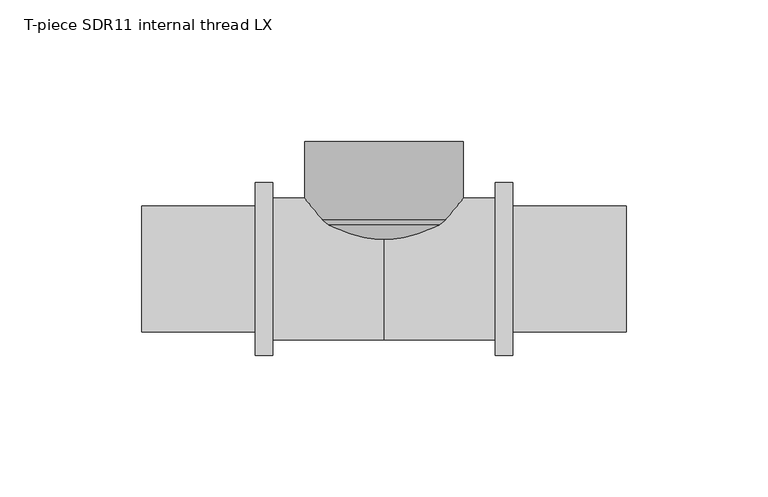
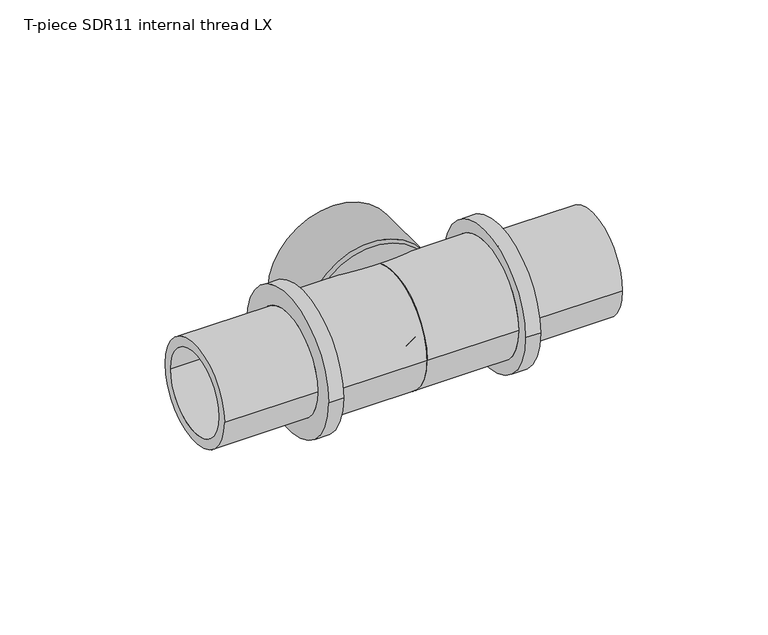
"""IFC4 building model written with IfcOpenShell, lengths in millimetres: pipe fitting geometry, T-piece SDR11 internal thread LX : T-piece LX SDR11 internal LX."""

from ifc_helpers import new_model, si_unit, point, frame, origin, place, context, project, spatial, polyline, circle_curve, ellipse_curve, trimmed, source, transform, mapped, element, save
from ifc_brep_helpers import plane_surface, cylinder_surface, revolved_surface, advanced_brep


def t_piece_sdr11_internal_thread_lx_7085c5c9(model_context):
    return source(origin(), model_context, "Body", "AdvancedBrep", [
        advanced_brep(
        [(20.0, 19.5, 0.0), (-20.0, 19.5, 0.0), (-20.0, 45.0, 0.0), (20.0, 45.0, 0.0), (0.5, 0.0, 0.0), (-0.5, 0.0, 0.0), (27.2683856, 15.4546771, 0.0), (-27.2683856, 15.4546771, 0.0), (-11.8137085, 0.0, 0.0), (11.8137085, 0.0, 0.0), (28.0, 17.2209505, 0.0), (-28.0, 17.2209505, 0.0), (28.0, 45.0, 0.0), (-28.0, 45.0, 0.0)],
        [
            (0, 1, circle_curve(frame((0.0, 19.5, 0.0), z_axis=(0.0, -1.0, 0.0), x_axis=(-1.0, 0.0, 0.0)), 20.0)),
            (1, 2),
            (2, 3, circle_curve(frame((0.0, 45.0, 0.0), z_axis=(0.0, 1.0, 0.0), x_axis=(-1.0, 0.0, 0.0)), 20.0)),
            (3, 0),
            (4, 5, circle_curve(frame((0.0, 0.0, 0.0), z_axis=(0.0, -1.0, 0.0), x_axis=(-1.0, 0.0, 0.0)), 0.5)),
            (5, 1),
            (0, 4),
            (6, 7, circle_curve(frame((0.0, 15.4546771, 0.0), z_axis=(0.0, -1.0, 0.0), x_axis=(-1.0, 0.0, 0.0)), 27.2683856)),
            (7, 8),
            (8, 9, circle_curve(frame((0.0, 0.0, 0.0), z_axis=(0.0, 1.0, 0.0), x_axis=(-1.0, 0.0, 0.0)), 11.8137085)),
            (9, 6),
            (10, 11, circle_curve(frame((0.0, 17.2209505, 0.0), z_axis=(0.0, -1.0, 0.0), x_axis=(-1.0, 0.0, 0.0)), 28.0)),
            (11, 7, circle_curve(frame((-20.0, 19.5, 0.0), z_axis=(0.0, 0.0, 1.0), x_axis=(0.0, 1.0, 0.0)), 8.3182971)),
            (6, 10, circle_curve(frame((20.0, 19.5, 0.0), z_axis=(0.0, 0.0, 1.0), x_axis=(0.0, 1.0, 0.0)), 8.3182971)),
            (12, 13, circle_curve(frame((0.0, 45.0, 0.0), z_axis=(0.0, -1.0, 0.0), x_axis=(-1.0, 0.0, 0.0)), 28.0)),
            (13, 11),
            (10, 12),
            (12, 13, circle_curve(frame((0.0, 45.0, 0.0), z_axis=(0.0, 1.0, 0.0), x_axis=(1.0, 0.0, 0.0)), 28.0)),
            (2, 3, circle_curve(frame((0.0, 45.0, 0.0), z_axis=(0.0, -1.0, 0.0), x_axis=(1.0, 0.0, 0.0)), 20.0)),
            (1, 0, circle_curve(frame((0.0, 19.5, 0.0), z_axis=(0.0, -1.0, 0.0), x_axis=(1.0, 0.0, 0.0)), 20.0)),
            (5, 4, circle_curve(frame((0.0, 0.0, 0.0), z_axis=(0.0, -1.0, 0.0), x_axis=(1.0, 0.0, 0.0)), 0.5)),
            (8, 9, circle_curve(frame((0.0, 0.0, 0.0), z_axis=(0.0, -1.0, 0.0), x_axis=(1.0, 0.0, 0.0)), 11.8137085)),
            (7, 6, circle_curve(frame((0.0, 15.4546771, 0.0), z_axis=(0.0, -1.0, 0.0), x_axis=(1.0, 0.0, 0.0)), 27.2683856)),
            (11, 10, circle_curve(frame((0.0, 17.2209505, 0.0), z_axis=(0.0, -1.0, 0.0), x_axis=(1.0, 0.0, 0.0)), 28.0)),
        ],
        [
            revolved_surface(polyline([(-20.0, 45.0, 0.0), (-20.0, 19.5, 0.0)]), (0.0, 0.0, 0.0), (0.0, 1.0, 0.0)),
            revolved_surface(polyline([(-20.0, 19.5, 0.0), (-0.5, 0.0, 0.0)]), (0.0, 0.0, 0.0), (0.0, 1.0, 0.0)),
            revolved_surface(polyline([(-11.8137085, 0.0, 0.0), (-27.2683856, 15.4546771, 0.0)]), (0.0, 0.0, 0.0), (0.0, 1.0, 0.0)),
            revolved_surface(trimmed(ellipse_curve(frame((-20.0, 19.5, 0.0), z_axis=(0.0, 0.0, -1.0), x_axis=(0.0, 1.0, 0.0)), 8.3182971, 8.3182971), [point((-27.2683856, 15.4546771, 0.0))], [point((-28.0, 17.2209505, 0.0))], True, "CARTESIAN"), (0.0, 0.0, 0.0), (0.0, 1.0, 0.0)),
            cylinder_surface(frame((0.0, 0.0, 0.0), z_axis=(0.0, 1.0, 0.0), x_axis=(-1.0, 0.0, 0.0)), 28.0),
            plane_surface(frame((0.0, 45.0, 0.0), z_axis=(0.0, 1.0, 0.0), x_axis=(1.0, 0.0, 0.0))),
            revolved_surface(polyline([(20.0, 45.0, 0.0), (20.0, 19.5, 0.0)]), (0.0, 0.0, 0.0), (0.0, 1.0, 0.0)),
            revolved_surface(polyline([(20.0, 19.5, 0.0), (0.5, 0.0, 0.0)]), (0.0, 0.0, 0.0), (0.0, 1.0, 0.0)),
            plane_surface(frame((0.0, 0.0, 0.0), z_axis=(0.0, -1.0, 0.0), x_axis=(1.0, 0.0, 0.0))),
            revolved_surface(polyline([(11.8137085, 0.0, 0.0), (27.2683856, 15.4546771, 0.0)]), (0.0, 0.0, 0.0), (0.0, 1.0, 0.0)),
            revolved_surface(trimmed(ellipse_curve(frame((20.0, 19.5, 0.0), z_axis=(0.0, 0.0, 1.0), x_axis=(0.0, 1.0, 0.0)), 8.3182971, 8.3182971), [point((27.2683856, 15.4546771, 0.0))], [point((28.0, 17.2209505, 0.0))], True, "CARTESIAN"), (0.0, 0.0, 0.0), (0.0, 1.0, 0.0)),
            cylinder_surface(frame((0.0, 0.0, 0.0), z_axis=(0.0, 1.0, 0.0), x_axis=(1.0, 0.0, 0.0)), 28.0),
        ],
        [
            (0, [[1, 2, 3, 4]]),
            (1, [[5, 6, -1, 7]]),
            (2, [[8, 9, 10, 11]]),
            (3, [[12, 13, -8, 14]]),
            (4, [[15, 16, -12, 17]]),
            (5, [[18, -15], [19, -3]]),
            (6, [[20, -4, -19, -2]]),
            (7, [[21, -7, -20, -6]]),
            (8, [[22, -10], [-21, -5]]),
            (9, [[23, -11, -22, -9]]),
            (10, [[24, -14, -23, -13]]),
            (11, [[-18, -17, -24, -16]]),
        ],
    ),
        advanced_brep(
        [(45.5, 30.5, 0.0), (45.5, -30.5, 0.0), (39.2, -30.5, 0.0), (39.2, 30.5, 0.0), (85.5, 22.15, 0.0), (85.5, -22.15, 0.0), (45.5, -22.15, 0.0), (45.5, 22.15, 0.0), (0.0, 18.0, 0.0), (0.0, -18.0, 0.0), (85.5, -18.0, 0.0), (85.5, 18.0, 0.0), (39.2, 25.0, 0.0), (39.2, -25.0, 0.0), (0.0, -25.0, 0.0), (0.0, 25.0, 0.0)],
        [
            (0, 1, circle_curve(frame((45.5, 0.0, 0.0), z_axis=(-1.0, 0.0, 0.0), x_axis=(0.0, -1.0, 0.0)), 30.5)),
            (1, 2),
            (2, 3, circle_curve(frame((39.2, 0.0, 0.0), z_axis=(1.0, 0.0, 0.0), x_axis=(0.0, -1.0, 0.0)), 30.5)),
            (3, 0),
            (4, 5, circle_curve(frame((85.5, 0.0, 0.0), z_axis=(-1.0, 0.0, 0.0), x_axis=(0.0, -1.0, 0.0)), 22.15)),
            (5, 6),
            (6, 7, circle_curve(frame((45.5, 0.0, 0.0), z_axis=(1.0, 0.0, 0.0), x_axis=(0.0, -1.0, 0.0)), 22.15)),
            (7, 4),
            (8, 9, circle_curve(frame((0.0, 0.0, 0.0), z_axis=(-1.0, 0.0, 0.0), x_axis=(0.0, -1.0, 0.0)), 18.0)),
            (9, 10),
            (10, 11, circle_curve(frame((85.5, 0.0, 0.0), z_axis=(1.0, 0.0, 0.0), x_axis=(0.0, -1.0, 0.0)), 18.0)),
            (11, 8),
            (12, 13, circle_curve(frame((39.2, 0.0, 0.0), z_axis=(-1.0, 0.0, 0.0), x_axis=(0.0, -1.0, 0.0)), 25.0)),
            (13, 14),
            (14, 15, circle_curve(frame((0.0, 0.0, 0.0), z_axis=(1.0, 0.0, 0.0), x_axis=(0.0, -1.0, 0.0)), 25.0)),
            (15, 12),
            (1, 0, circle_curve(frame((45.5, 0.0, 0.0), z_axis=(-1.0, 0.0, 0.0), x_axis=(0.0, 1.0, 0.0)), 30.5)),
            (3, 2, circle_curve(frame((39.2, 0.0, 0.0), z_axis=(1.0, 0.0, 0.0), x_axis=(0.0, 1.0, 0.0)), 30.5)),
            (6, 7, circle_curve(frame((45.5, 0.0, 0.0), z_axis=(-1.0, 0.0, 0.0), x_axis=(0.0, 1.0, 0.0)), 22.15)),
            (5, 4, circle_curve(frame((85.5, 0.0, 0.0), z_axis=(-1.0, 0.0, 0.0), x_axis=(0.0, 1.0, 0.0)), 22.15)),
            (10, 11, circle_curve(frame((85.5, 0.0, 0.0), z_axis=(-1.0, 0.0, 0.0), x_axis=(0.0, 1.0, 0.0)), 18.0)),
            (9, 8, circle_curve(frame((0.0, 0.0, 0.0), z_axis=(-1.0, 0.0, 0.0), x_axis=(0.0, 1.0, 0.0)), 18.0)),
            (14, 15, circle_curve(frame((0.0, 0.0, 0.0), z_axis=(-1.0, 0.0, 0.0), x_axis=(0.0, 1.0, 0.0)), 25.0)),
            (13, 12, circle_curve(frame((39.2, 0.0, 0.0), z_axis=(-1.0, 0.0, 0.0), x_axis=(0.0, 1.0, 0.0)), 25.0)),
        ],
        [
            cylinder_surface(frame((0.0, 0.0, 0.0), z_axis=(1.0, 0.0, 0.0), x_axis=(0.0, -1.0, 0.0)), 30.5),
            cylinder_surface(frame((0.0, 0.0, 0.0), z_axis=(1.0, 0.0, 0.0), x_axis=(0.0, -1.0, 0.0)), 22.15),
            revolved_surface(polyline([(85.5, -18.0, 0.0), (0.0, -18.0, 0.0)]), (0.0, 0.0, 0.0), (1.0, 0.0, 0.0)),
            cylinder_surface(frame((0.0, 0.0, 0.0), z_axis=(1.0, 0.0, 0.0), x_axis=(0.0, -1.0, 0.0)), 25.0),
            cylinder_surface(frame((0.0, 0.0, 0.0), z_axis=(1.0, 0.0, 0.0), x_axis=(0.0, 1.0, 0.0)), 30.5),
            plane_surface(frame((45.5, 0.0, 0.0), z_axis=(1.0, 0.0, 0.0), x_axis=(0.0, 1.0, 0.0))),
            cylinder_surface(frame((0.0, 0.0, 0.0), z_axis=(1.0, 0.0, 0.0), x_axis=(0.0, 1.0, 0.0)), 22.15),
            plane_surface(frame((85.5, 0.0, 0.0), z_axis=(1.0, 0.0, 0.0), x_axis=(0.0, 1.0, 0.0))),
            revolved_surface(polyline([(85.5, 18.0, 0.0), (0.0, 18.0, 0.0)]), (0.0, 0.0, 0.0), (1.0, 0.0, 0.0)),
            plane_surface(frame((0.0, 0.0, 0.0), z_axis=(-1.0, 0.0, 0.0), x_axis=(0.0, 1.0, 0.0))),
            cylinder_surface(frame((0.0, 0.0, 0.0), z_axis=(1.0, 0.0, 0.0), x_axis=(0.0, 1.0, 0.0)), 25.0),
            plane_surface(frame((39.2, 0.0, 0.0), z_axis=(-1.0, 0.0, 0.0), x_axis=(0.0, 1.0, 0.0))),
        ],
        [
            (0, [[1, 2, 3, 4]]),
            (1, [[5, 6, 7, 8]]),
            (2, [[9, 10, 11, 12]]),
            (3, [[13, 14, 15, 16]]),
            (4, [[17, -4, 18, -2]]),
            (5, [[-17, -1], [19, -7]]),
            (6, [[20, -8, -19, -6]]),
            (7, [[-20, -5], [21, -11]]),
            (8, [[22, -12, -21, -10]]),
            (9, [[23, -15], [-22, -9]]),
            (10, [[24, -16, -23, -14]]),
            (11, [[-18, -3], [-24, -13]]),
        ],
    ),
        advanced_brep(
        [(0.0, 25.0, 0.0), (0.0, -25.0, 0.0), (-39.2, -25.0, 0.0), (-39.2, 25.0, 0.0), (-85.5, 18.0, 0.0), (-85.5, -18.0, 0.0), (0.0, -18.0, 0.0), (0.0, 18.0, 0.0), (-45.5, 22.15, 0.0), (-45.5, -22.15, 0.0), (-85.5, -22.15, 0.0), (-85.5, 22.15, 0.0), (-39.2, 30.5, 0.0), (-39.2, -30.5, 0.0), (-45.5, -30.5, 0.0), (-45.5, 30.5, 0.0)],
        [
            (0, 1, circle_curve(frame((0.0, 0.0, 0.0), z_axis=(-1.0, 0.0, 0.0), x_axis=(0.0, -1.0, 0.0)), 25.0)),
            (1, 2),
            (2, 3, circle_curve(frame((-39.2, 0.0, 0.0), z_axis=(1.0, 0.0, 0.0), x_axis=(0.0, -1.0, 0.0)), 25.0)),
            (3, 0),
            (4, 5, circle_curve(frame((-85.5, 0.0, 0.0), z_axis=(-1.0, 0.0, 0.0), x_axis=(0.0, -1.0, 0.0)), 18.0)),
            (5, 6),
            (6, 7, circle_curve(frame((0.0, 0.0, 0.0), z_axis=(1.0, 0.0, 0.0), x_axis=(0.0, -1.0, 0.0)), 18.0)),
            (7, 4),
            (8, 9, circle_curve(frame((-45.5, 0.0, 0.0), z_axis=(-1.0, 0.0, 0.0), x_axis=(0.0, -1.0, 0.0)), 22.15)),
            (9, 10),
            (10, 11, circle_curve(frame((-85.5, 0.0, 0.0), z_axis=(1.0, 0.0, 0.0), x_axis=(0.0, -1.0, 0.0)), 22.15)),
            (11, 8),
            (12, 13, circle_curve(frame((-39.2, 0.0, 0.0), z_axis=(-1.0, 0.0, 0.0), x_axis=(0.0, -1.0, 0.0)), 30.5)),
            (13, 14),
            (14, 15, circle_curve(frame((-45.5, 0.0, 0.0), z_axis=(1.0, 0.0, 0.0), x_axis=(0.0, -1.0, 0.0)), 30.5)),
            (15, 12),
            (12, 13, circle_curve(frame((-39.2, 0.0, 0.0), z_axis=(1.0, 0.0, 0.0), x_axis=(0.0, 1.0, 0.0)), 30.5)),
            (2, 3, circle_curve(frame((-39.2, 0.0, 0.0), z_axis=(-1.0, 0.0, 0.0), x_axis=(0.0, 1.0, 0.0)), 25.0)),
            (1, 0, circle_curve(frame((0.0, 0.0, 0.0), z_axis=(-1.0, 0.0, 0.0), x_axis=(0.0, 1.0, 0.0)), 25.0)),
            (6, 7, circle_curve(frame((0.0, 0.0, 0.0), z_axis=(-1.0, 0.0, 0.0), x_axis=(0.0, 1.0, 0.0)), 18.0)),
            (5, 4, circle_curve(frame((-85.5, 0.0, 0.0), z_axis=(-1.0, 0.0, 0.0), x_axis=(0.0, 1.0, 0.0)), 18.0)),
            (10, 11, circle_curve(frame((-85.5, 0.0, 0.0), z_axis=(-1.0, 0.0, 0.0), x_axis=(0.0, 1.0, 0.0)), 22.15)),
            (9, 8, circle_curve(frame((-45.5, 0.0, 0.0), z_axis=(-1.0, 0.0, 0.0), x_axis=(0.0, 1.0, 0.0)), 22.15)),
            (14, 15, circle_curve(frame((-45.5, 0.0, 0.0), z_axis=(-1.0, 0.0, 0.0), x_axis=(0.0, 1.0, 0.0)), 30.5)),
        ],
        [
            cylinder_surface(frame((0.0, 0.0, 0.0), z_axis=(1.0, 0.0, 0.0), x_axis=(0.0, -1.0, 0.0)), 25.0),
            revolved_surface(polyline([(0.0, -18.0, 0.0), (-85.5, -18.0, 0.0)]), (0.0, 0.0, 0.0), (1.0, 0.0, 0.0)),
            cylinder_surface(frame((0.0, 0.0, 0.0), z_axis=(1.0, 0.0, 0.0), x_axis=(0.0, -1.0, 0.0)), 22.15),
            cylinder_surface(frame((0.0, 0.0, 0.0), z_axis=(1.0, 0.0, 0.0), x_axis=(0.0, -1.0, 0.0)), 30.5),
            plane_surface(frame((-39.2, 0.0, 0.0), z_axis=(1.0, 0.0, 0.0), x_axis=(0.0, 1.0, 0.0))),
            cylinder_surface(frame((0.0, 0.0, 0.0), z_axis=(1.0, 0.0, 0.0), x_axis=(0.0, 1.0, 0.0)), 25.0),
            plane_surface(frame((0.0, 0.0, 0.0), z_axis=(1.0, 0.0, 0.0), x_axis=(0.0, 1.0, 0.0))),
            revolved_surface(polyline([(0.0, 18.0, 0.0), (-85.5, 18.0, 0.0)]), (0.0, 0.0, 0.0), (1.0, 0.0, 0.0)),
            plane_surface(frame((-85.5, 0.0, 0.0), z_axis=(-1.0, 0.0, 0.0), x_axis=(0.0, 1.0, 0.0))),
            cylinder_surface(frame((0.0, 0.0, 0.0), z_axis=(1.0, 0.0, 0.0), x_axis=(0.0, 1.0, 0.0)), 22.15),
            plane_surface(frame((-45.5, 0.0, 0.0), z_axis=(-1.0, 0.0, 0.0), x_axis=(0.0, 1.0, 0.0))),
            cylinder_surface(frame((0.0, 0.0, 0.0), z_axis=(1.0, 0.0, 0.0), x_axis=(0.0, 1.0, 0.0)), 30.5),
        ],
        [
            (0, [[1, 2, 3, 4]]),
            (1, [[5, 6, 7, 8]]),
            (2, [[9, 10, 11, 12]]),
            (3, [[13, 14, 15, 16]]),
            (4, [[17, -13], [18, -3]]),
            (5, [[19, -4, -18, -2]]),
            (6, [[-19, -1], [20, -7]]),
            (7, [[21, -8, -20, -6]]),
            (8, [[22, -11], [-21, -5]]),
            (9, [[23, -12, -22, -10]]),
            (10, [[24, -15], [-23, -9]]),
            (11, [[-17, -16, -24, -14]]),
        ],
    ),
    ])


if __name__ == "__main__":
    model = new_model("IFC4")
    model_context = context("Model", 3, world=origin())
    ifc_project = project(units=[si_unit("LENGTHUNIT", "METRE", prefix="MILLI")], contexts=[model_context])
    site = spatial("IfcSite", under=ifc_project)
    building = spatial("IfcBuilding", under=site)
    placement = place(None, origin())
    t_piece_sdr11_internal_thread_lx_shape = t_piece_sdr11_internal_thread_lx_7085c5c9(model_context)
    element("IfcPipeFitting", 1, ObjectType="T-piece SDR11 internal thread LX : T-piece LX SDR11 internal LX", at=placement, inside=building, context=model_context, shape_type="MappedRepresentation", body=[
        mapped(t_piece_sdr11_internal_thread_lx_shape, transform((0.0, 0.0, 0.0), x_axis=(1.0, 0.0, 0.0), y_axis=(0.0, 1.0, 0.0), z_axis=(0.0, 0.0, 1.0))),
    ])
    save(model, "model.ifc")
